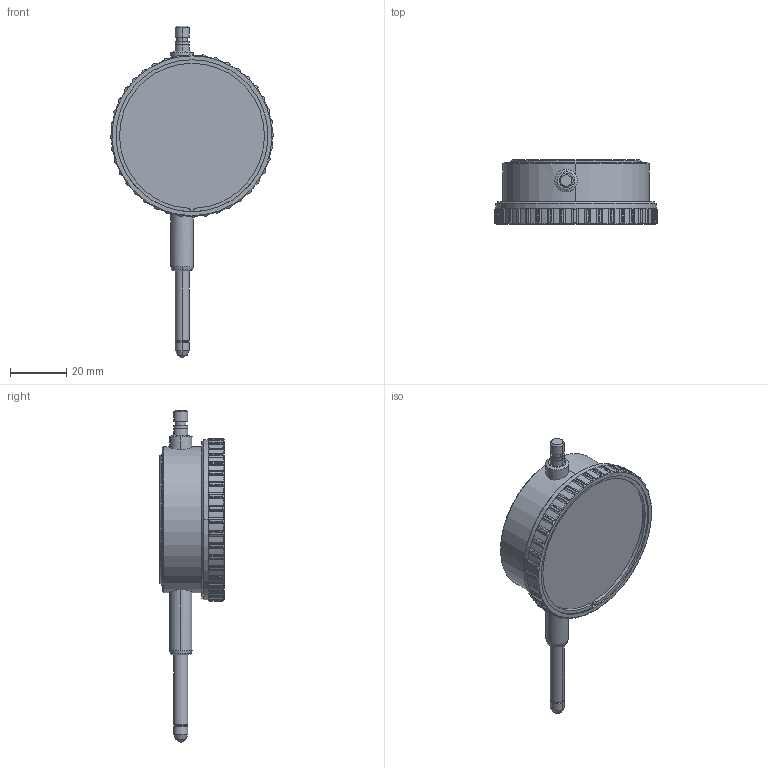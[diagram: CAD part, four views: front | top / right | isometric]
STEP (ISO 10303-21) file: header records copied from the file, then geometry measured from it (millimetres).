
FILE_DESCRIPTION(('STEP AP214'),'1');
FILE_NAME('M10b.STP','2016-07-20T08:11:27',(' '),(' '),'Spatial InterOp 3D',' ',' ');
FILE_SCHEMA(('automotive_design'));
Length unit declared in the file: millimetre
Products named in the file (1): 1
Bounding box: 58 x 23 x 117.99 mm (x, y, z)
Volume: 50349.9 mm3; surface area: 10581.6 mm2
Topology: 1 solids, 4 shells, 380 faces, 1044 edges, 688 vertices
Faces by surface type: cylinder 233, plane 118, cone 28, sphere 1
Entity records: 13449 total; most frequent: CARTESIAN_POINT 4341, ORIENTED_EDGE 2088, DIRECTION 1754, EDGE_CURVE 1044, AXIS2_PLACEMENT_3D 693, VERTEX_POINT 688, EDGE_LOOP 402, ADVANCED_FACE 380
